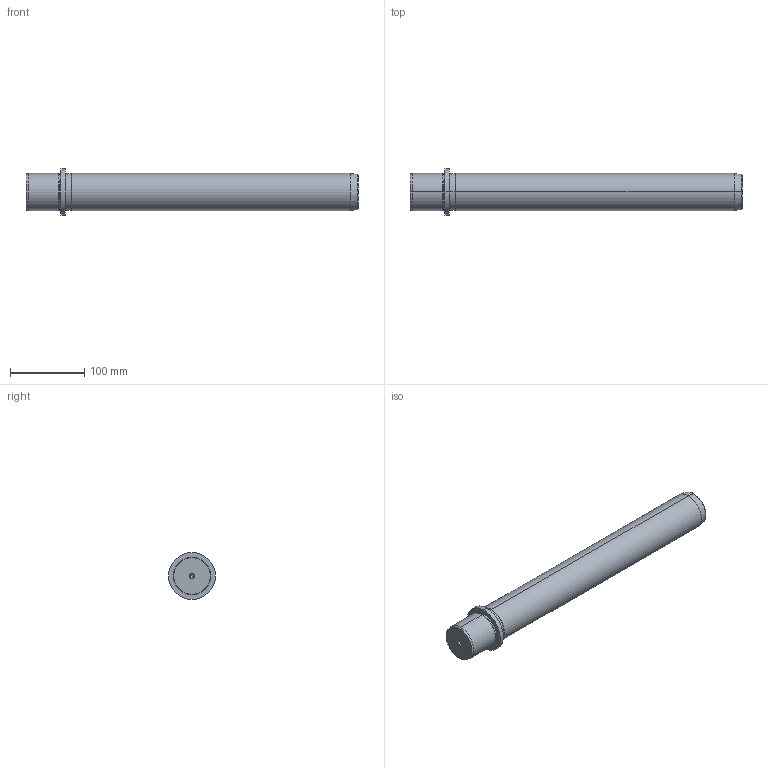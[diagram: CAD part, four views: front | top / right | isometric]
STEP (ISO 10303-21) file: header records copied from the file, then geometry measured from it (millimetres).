
FILE_DESCRIPTION(('CATIA V5 STEP Exchange'),'2;1');
FILE_NAME('C:\Users\Utente\Desktop\IO LAVORO\3D X SITO CF\X SITO\719\719-50x400.stp','2021-01-03T14:56:34+00:00',('none'),('none'),'CATIA Version 5 Release 20 GA (IN-10)','CATIA V5 STEP AP203','none');
FILE_SCHEMA(('CONFIG_CONTROL_DESIGN'));
Length unit declared in the file: millimetre
Products named in the file (1): 719-50x400
Bounding box: 447 x 63 x 63 mm (x, y, z)
Volume: 880739.6 mm3; surface area: 77498.1 mm2
Topology: 1 solids, 1 shells, 36 faces, 100 edges, 66 vertices
Faces by surface type: cone 16, cylinder 14, plane 4, torus 2
Entity records: 1267 total; most frequent: CARTESIAN_POINT 334, ORIENTED_EDGE 192, DIRECTION 159, EDGE_CURVE 96, AXIS2_PLACEMENT_3D 94, VERTEX_POINT 66, CIRCLE 57, EDGE_LOOP 40
